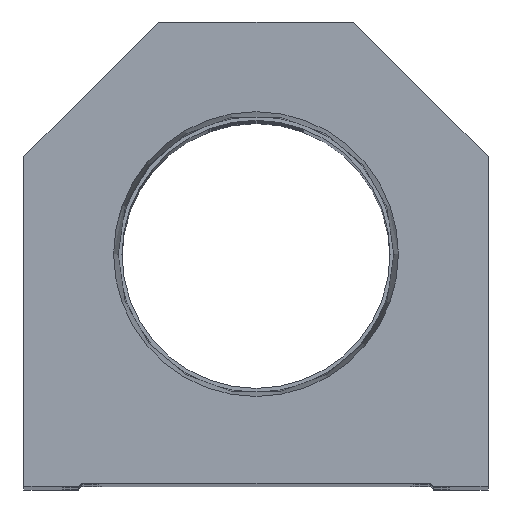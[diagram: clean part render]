
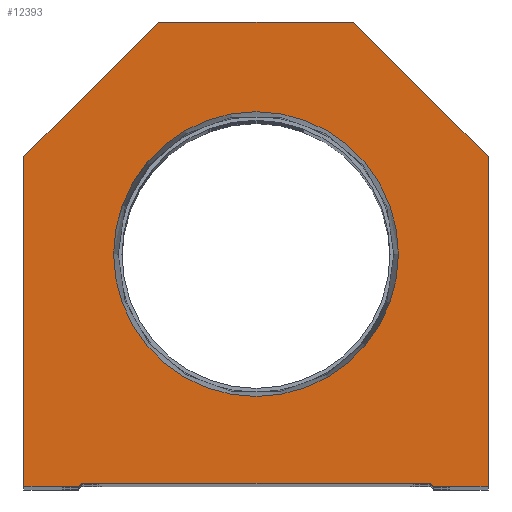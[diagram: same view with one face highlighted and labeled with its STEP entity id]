
A CAD part, top view. The second image highlights one B-rep face of the part: STEP entity #12393.
In plain terms, the highlighted planar face has unit normal (0, 0, 1).
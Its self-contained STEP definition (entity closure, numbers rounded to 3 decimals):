
#115 = CARTESIAN_POINT ( 'NONE',  ( 38.1, 54.1, 0. ) ) ;
#1141 = LINE ( 'NONE', #12271, #11838 ) ;
#1231 = CARTESIAN_POINT ( 'NONE',  ( 23.374, 38.1, 0. ) ) ;
#1320 = DIRECTION ( 'NONE',  ( 1., 0., 0. ) ) ;
#1384 = ORIENTED_EDGE ( 'NONE', *, *, #11171, .T. ) ;
#1440 = DIRECTION ( 'NONE',  ( -1., 0., 0. ) ) ;
#1877 = EDGE_CURVE ( 'NONE', #8936, #14942, #6682, .T. ) ;
#1953 = CARTESIAN_POINT ( 'NONE',  ( 16., 76.2, 0. ) ) ;
#2381 = LINE ( 'NONE', #16169, #10027 ) ;
#2382 = VERTEX_POINT ( 'NONE', #17955 ) ;
#2429 = CIRCLE ( 'NONE', #17584, 23.374 ) ;
#2561 = PLANE ( 'NONE',  #8340 ) ;
#2593 = DIRECTION ( 'NONE',  ( 0., 0., 1. ) ) ;
#2694 = EDGE_CURVE ( 'NONE', #10874, #8936, #1141, .T. ) ;
#2901 = FACE_OUTER_BOUND ( 'NONE', #17247, .T. ) ;
#2910 = CARTESIAN_POINT ( 'NONE',  ( 16., 76.2, 0. ) ) ;
#3012 = ORIENTED_EDGE ( 'NONE', *, *, #1877, .T. ) ;
#3048 = AXIS2_PLACEMENT_3D ( 'NONE', #12334, #2593, #5368 ) ;
#3126 = CARTESIAN_POINT ( 'NONE',  ( 14.55, 14.55, 0. ) ) ;
#3241 = ORIENTED_EDGE ( 'NONE', *, *, #11124, .F. ) ;
#3293 = DIRECTION ( 'NONE',  ( 0., 1., 0. ) ) ;
#3301 = CARTESIAN_POINT ( 'NONE',  ( -38.1, 0., 0. ) ) ;
#3985 = CARTESIAN_POINT ( 'NONE',  ( -14.55, 14.55, 0. ) ) ;
#4056 = ORIENTED_EDGE ( 'NONE', *, *, #9030, .T. ) ;
#4163 = VERTEX_POINT ( 'NONE', #1231 ) ;
#4381 = ORIENTED_EDGE ( 'NONE', *, *, #6932, .T. ) ;
#4708 = CARTESIAN_POINT ( 'NONE',  ( -16., 76.2, 0. ) ) ;
#4715 = CARTESIAN_POINT ( 'NONE',  ( 28.6, 0., 0. ) ) ;
#5177 = CARTESIAN_POINT ( 'NONE',  ( 28.6, 0.5, 0. ) ) ;
#5212 = DIRECTION ( 'NONE',  ( 0., 0., 1. ) ) ;
#5368 = DIRECTION ( 'NONE',  ( 1., 0., 0. ) ) ;
#5694 = ORIENTED_EDGE ( 'NONE', *, *, #13663, .T. ) ;
#6315 = CARTESIAN_POINT ( 'NONE',  ( 38.1, 0., 0. ) ) ;
#6321 = EDGE_CURVE ( 'NONE', #11698, #10874, #14315, .T. ) ;
#6603 = FACE_BOUND ( 'NONE', #14258, .T. ) ;
#6682 = LINE ( 'NONE', #2910, #10658 ) ;
#6799 = EDGE_CURVE ( 'NONE', #16446, #9138, #2381, .T. ) ;
#6895 = CARTESIAN_POINT ( 'NONE',  ( -38.1, 54.1, 0. ) ) ;
#6932 = EDGE_CURVE ( 'NONE', #14992, #11869, #15639, .T. ) ;
#7089 = ORIENTED_EDGE ( 'NONE', *, *, #13935, .T. ) ;
#7092 = CARTESIAN_POINT ( 'NONE',  ( 29.1, 0., 0. ) ) ;
#7436 = CARTESIAN_POINT ( 'NONE',  ( -38.1, 0., 0. ) ) ;
#8074 = CARTESIAN_POINT ( 'NONE',  ( -28.6, 0.5, 0. ) ) ;
#8340 = AXIS2_PLACEMENT_3D ( 'NONE', #17797, #9318, #15425 ) ;
#8859 = DIRECTION ( 'NONE',  ( 0., -1., 0. ) ) ;
#8936 = VERTEX_POINT ( 'NONE', #1953 ) ;
#9030 = EDGE_CURVE ( 'NONE', #2382, #14992, #9423, .T. ) ;
#9138 = VERTEX_POINT ( 'NONE', #13054 ) ;
#9263 = LINE ( 'NONE', #3985, #11204 ) ;
#9318 = DIRECTION ( 'NONE',  ( 0., 0., 1. ) ) ;
#9416 = DIRECTION ( 'NONE',  ( 1., 0., 0. ) ) ;
#9423 = LINE ( 'NONE', #8074, #10246 ) ;
#9534 = DIRECTION ( 'NONE',  ( 0.707, 0.707, 0. ) ) ;
#10027 = VECTOR ( 'NONE', #9416, 1000. ) ;
#10246 = VECTOR ( 'NONE', #13699, 1000. ) ;
#10658 = VECTOR ( 'NONE', #1440, 1000. ) ;
#10838 = EDGE_CURVE ( 'NONE', #17230, #4163, #2429, .T. ) ;
#10874 = VERTEX_POINT ( 'NONE', #115 ) ;
#10921 = VECTOR ( 'NONE', #16957, 1000. ) ;
#11124 = EDGE_CURVE ( 'NONE', #4163, #17230, #12933, .T. ) ;
#11171 = EDGE_CURVE ( 'NONE', #9138, #2382, #9263, .T. ) ;
#11204 = VECTOR ( 'NONE', #9534, 1000. ) ;
#11226 = ORIENTED_EDGE ( 'NONE', *, *, #10838, .F. ) ;
#11629 = LINE ( 'NONE', #4715, #12982 ) ;
#11698 = VERTEX_POINT ( 'NONE', #16425 ) ;
#11838 = VECTOR ( 'NONE', #17844, 1000. ) ;
#11869 = VERTEX_POINT ( 'NONE', #7092 ) ;
#12094 = EDGE_CURVE ( 'NONE', #11869, #11698, #11629, .T. ) ;
#12271 = CARTESIAN_POINT ( 'NONE',  ( 38.1, 54.1, 0. ) ) ;
#12334 = CARTESIAN_POINT ( 'NONE',  ( 0., 38.1, 0. ) ) ;
#12379 = VECTOR ( 'NONE', #3293, 1000. ) ;
#12393 = ADVANCED_FACE ( 'NONE', ( #6603, #2901 ), #2561, .T. ) ;
#12436 = DIRECTION ( 'NONE',  ( -0.707, -0.707, 0. ) ) ;
#12524 = LINE ( 'NONE', #6895, #14742 ) ;
#12933 = CIRCLE ( 'NONE', #3048, 23.374 ) ;
#12982 = VECTOR ( 'NONE', #14561, 1000. ) ;
#13054 = CARTESIAN_POINT ( 'NONE',  ( -29.1, 0., 0. ) ) ;
#13151 = ORIENTED_EDGE ( 'NONE', *, *, #2694, .T. ) ;
#13547 = ORIENTED_EDGE ( 'NONE', *, *, #6799, .T. ) ;
#13663 = EDGE_CURVE ( 'NONE', #14942, #16782, #12524, .T. ) ;
#13699 = DIRECTION ( 'NONE',  ( 1., 0., 0. ) ) ;
#13935 = EDGE_CURVE ( 'NONE', #16782, #16446, #17324, .T. ) ;
#14124 = CARTESIAN_POINT ( 'NONE',  ( -38.1, 54.1, 0. ) ) ;
#14258 = EDGE_LOOP ( 'NONE', ( #3241, #11226 ) ) ;
#14315 = LINE ( 'NONE', #6315, #12379 ) ;
#14561 = DIRECTION ( 'NONE',  ( 1., 0., 0. ) ) ;
#14742 = VECTOR ( 'NONE', #12436, 1000. ) ;
#14942 = VERTEX_POINT ( 'NONE', #4708 ) ;
#14982 = CARTESIAN_POINT ( 'NONE',  ( -23.374, 38.1, 0. ) ) ;
#14992 = VERTEX_POINT ( 'NONE', #5177 ) ;
#15375 = ORIENTED_EDGE ( 'NONE', *, *, #6321, .T. ) ;
#15425 = DIRECTION ( 'NONE',  ( 1., 0., 0. ) ) ;
#15639 = LINE ( 'NONE', #3126, #10921 ) ;
#16169 = CARTESIAN_POINT ( 'NONE',  ( -28.6, 0., 0. ) ) ;
#16425 = CARTESIAN_POINT ( 'NONE',  ( 38.1, 0., 0. ) ) ;
#16446 = VERTEX_POINT ( 'NONE', #7436 ) ;
#16776 = VECTOR ( 'NONE', #8859, 1000. ) ;
#16782 = VERTEX_POINT ( 'NONE', #14124 ) ;
#16950 = ORIENTED_EDGE ( 'NONE', *, *, #12094, .T. ) ;
#16957 = DIRECTION ( 'NONE',  ( 0.707, -0.707, 0. ) ) ;
#17230 = VERTEX_POINT ( 'NONE', #14982 ) ;
#17247 = EDGE_LOOP ( 'NONE', ( #13547, #1384, #4056, #4381, #16950, #15375, #13151, #3012, #5694, #7089 ) ) ;
#17324 = LINE ( 'NONE', #3301, #16776 ) ;
#17584 = AXIS2_PLACEMENT_3D ( 'NONE', #17666, #5212, #1320 ) ;
#17666 = CARTESIAN_POINT ( 'NONE',  ( 0., 38.1, 0. ) ) ;
#17797 = CARTESIAN_POINT ( 'NONE',  ( 0., 0., 0. ) ) ;
#17844 = DIRECTION ( 'NONE',  ( -0.707, 0.707, 0. ) ) ;
#17955 = CARTESIAN_POINT ( 'NONE',  ( -28.6, 0.5, 0. ) ) ;
